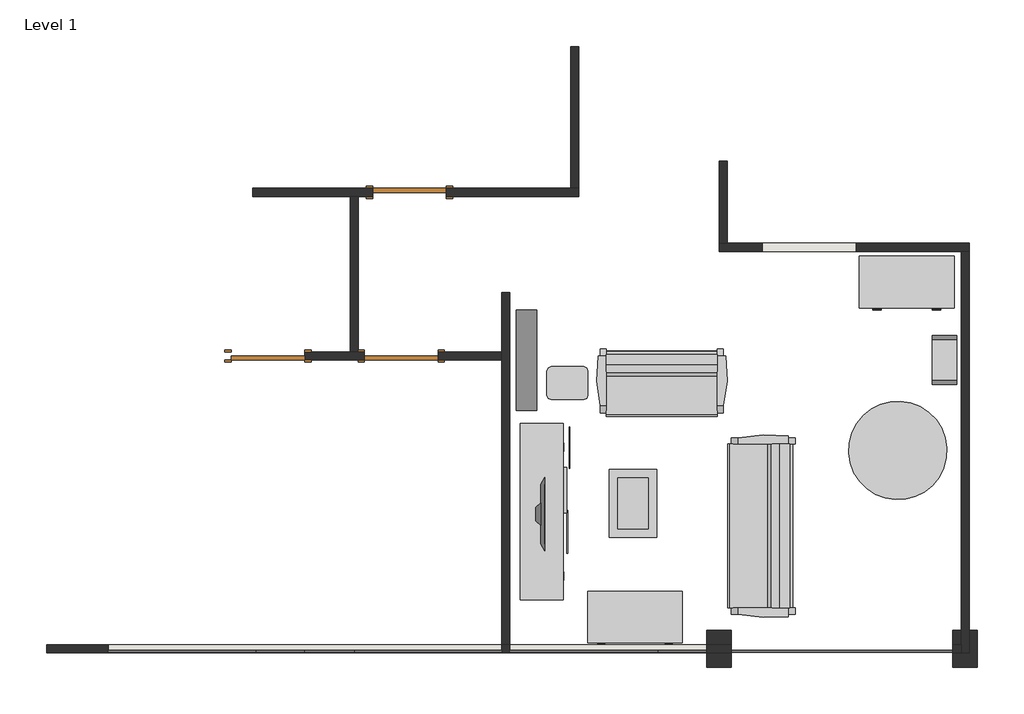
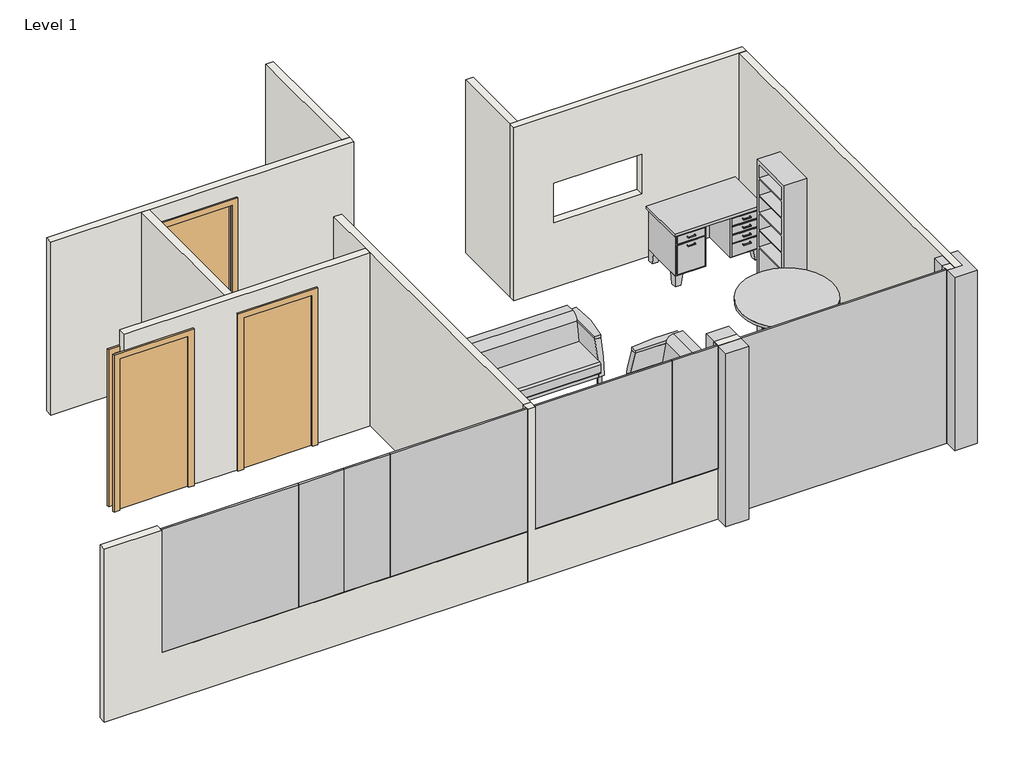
# One storey, incomplete: 10 furniture elements, 10 walls, 7 plates, 3 doors, 2 columns, 1 proxy.
"""IFC4 building model written with IfcOpenShell, lengths in millimetres."""

from ifc_helpers import new_model, si_unit, frame, origin, origin_with_axes, place, context, project, spatial, polyline, outline, extrude, faceted_brep, transform, mapped, element, save
from components import flat_screen_tv_7927_flat_screen_tv_7927_052adb82, concrete_rectangular_column_12_x_18_bfd634d7, door_048588e9, door_310a3c6c, furniture_6dfb0ca2, credenza_chest_ae103346, furniture_3d133266, furniture_b4575065, furniture_3fcbf438, furniture_de074a7a, furniture_85b1757a, furniture_73f28dff, furniture_7060ebe6, furniture_ab561517, system_panel_glazed_8633cea9, system_panel_glazed_ed711000, system_panel_glazed_10f89dab, system_panel_glazed_7aafd440, system_panel_glazed_fb0295e7

model = new_model("IFC4")

# Units and contexts
model_context = context("Model", 3, world=origin())
ifc_project = project(units=[si_unit("LENGTHUNIT", "METRE", prefix="MILLI")], contexts=[model_context])

# Site, building, storey
site = spatial("IfcSite", under=ifc_project)
building = spatial("IfcBuilding", under=site)
storey = spatial("IfcBuildingStorey", under=building, Name="Level 1", Elevation=0.0)

# Proxy
placement = place(None, origin())
flat_screen_tv_7927_flat_screen_tv_7927_shape = flat_screen_tv_7927_flat_screen_tv_7927_052adb82(model_context)
element("IfcBuildingElementProxy", 1, Name="Flat_Screen_TV_7927 : Flat_Screen_TV_7927", ObjectType="Flat_Screen_TV_7927 : Flat_Screen_TV_7927", at=placement, inside=storey, context=model_context, shape_type="MappedRepresentation", body=[
    mapped(flat_screen_tv_7927_flat_screen_tv_7927_shape, transform((6517.021318, 948.0409068, 990.6), x_axis=(0.0, 1.0000000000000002, 0.0), y_axis=(-1.0000000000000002, 0.0, 0.0), z_axis=(0.0, 0.0, 1.0))),
])

# Columns
concrete_rectangular_column_12_x_18_shape = concrete_rectangular_column_12_x_18_bfd634d7(model_context)
element("IfcColumn", 2, ObjectType="Concrete-Rectangular-Column : 12 x 18", at=placement, inside=storey, context=model_context, shape_type="MappedRepresentation", body=[
    mapped(concrete_rectangular_column_12_x_18_shape, transform((11724.021318, -722.0090932, 0.0), x_axis=(1.0, 0.0, 0.0), y_axis=(0.0, 1.0, 0.0), z_axis=(0.0, 0.0, 1.0))),
])
element("IfcColumn", 3, ObjectType="Concrete-Rectangular-Column : 12 x 18", at=placement, inside=storey, context=model_context, shape_type="MappedRepresentation", body=[
    mapped(concrete_rectangular_column_12_x_18_shape, transform((8676.021318, -722.0090932, 0.0), x_axis=(1.0, 0.0, 0.0), y_axis=(0.0, 1.0, 0.0), z_axis=(0.0, 0.0, 1.0))),
])

# Doors
door_shape = door_048588e9(model_context)
element("IfcDoor", 4, ObjectType="Single-Flush : 36\" x 84\"", at=placement, inside=storey, context=model_context, shape_type="MappedRepresentation", body=[
    mapped(door_shape, transform((4739.021318, 2910.1909068, 0.0), x_axis=(-1.0, 0.0, 0.0), y_axis=(0.0, -1.0, 0.0), z_axis=(0.0, 0.0, 1.0))),
])
element("IfcDoor", 5, ObjectType="Single-Flush : 36\" x 84\"", at=placement, inside=storey, context=model_context, shape_type="MappedRepresentation", body=[
    mapped(door_shape, transform((4840.621318, 4937.004425, 0.0), x_axis=(1.0, 0.0, 0.0), y_axis=(0.0, 1.0, 0.0), z_axis=(0.0, 0.0, 1.0))),
])
door_2_shape = door_310a3c6c(model_context)
element("IfcDoor", 6, ObjectType="Single-Flush : 36\" x 84\"", at=placement, inside=storey, context=model_context, shape_type="MappedRepresentation", body=[
    mapped(door_2_shape, transform((3088.021318, 2910.1909068, 0.0), x_axis=(1.0, 0.0, 0.0), y_axis=(0.0, 1.0, 0.0), z_axis=(0.0, 0.0, 1.0))),
])

# Furniture
furniture_shape = furniture_6dfb0ca2(model_context)
element("IfcFurniture", 7, ObjectType="Credenza : 84\"x20\"", at=placement, inside=storey, context=model_context, shape_type="MappedRepresentation", body=[
    mapped(furniture_shape, transform((6470.8016459, 920.2466445, 0.0), x_axis=(0.0, 0.9999999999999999, 0.0), y_axis=(-0.9999999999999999, 0.0, 0.0), z_axis=(0.0, 0.0, 1.0))),
])
credenza_chest_shape = credenza_chest_ae103346(model_context)
element("IfcFurniture", 8, ObjectType="Credenza : Chest", at=placement, inside=storey, context=model_context, shape_type="MappedRepresentation", body=[
    mapped(credenza_chest_shape, transform((7575.0770557, -320.189421, 0.0), x_axis=(1.0, 0.0, 0.0), y_axis=(0.0, 1.0, 0.0), z_axis=(0.0, 0.0, 1.0))),
])
furniture_2_shape = furniture_3d133266(model_context)
element("IfcFurniture", 9, ObjectType="Desk : 45\" x 24\"", at=placement, inside=storey, context=model_context, shape_type="MappedRepresentation", body=[
    mapped(furniture_2_shape, transform((10238.121318, 3443.5909068, 0.0), x_axis=(1.0, 0.0, 0.0), y_axis=(0.0, 1.0, 0.0), z_axis=(0.0, 0.0, 1.0))),
])
furniture_3_shape = furniture_b4575065(model_context)
element("IfcFurniture", 10, ObjectType="Shelving : 24\"x12\"x67\"", at=placement, inside=storey, context=model_context, shape_type="MappedRepresentation", body=[
    mapped(furniture_3_shape, transform((11165.221318, 2859.3909068, 0.0), x_axis=(0.0, 1.0, 0.0), y_axis=(-1.0, 0.0, 0.0), z_axis=(0.0, 0.0, 1.0))),
])
furniture_4_shape = furniture_3fcbf438(model_context)
element("IfcFurniture", 11, ObjectType="Shelving : 49\" x 48\" x 9.5\"", at=placement, inside=storey, context=model_context, shape_type="MappedRepresentation", body=[
    mapped(furniture_4_shape, transform((5983.621318, 2859.3909068, 0.0), x_axis=(0.0, 1.0, 0.0), y_axis=(-1.0, 0.0, 0.0), z_axis=(0.0, 0.0, 1.0))),
])
furniture_5_shape = furniture_de074a7a(model_context)
element("IfcFurniture", 12, ObjectType="Sofa-Pensi : 60\"", at=placement, inside=storey, context=model_context, shape_type="MappedRepresentation", body=[
    mapped(furniture_5_shape, transform((7686.215068, 2302.8810708, 0.0), x_axis=(1.0000000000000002, 0.0, 0.0), y_axis=(0.0, 1.0000000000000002, 0.0), z_axis=(0.0, 0.0, 1.0))),
])
furniture_6_shape = furniture_85b1757a(model_context)
element("IfcFurniture", 13, ObjectType="Sofa-Pensi : 86\"", at=placement, inside=storey, context=model_context, shape_type="MappedRepresentation", body=[
    mapped(furniture_6_shape, transform((8922.7671413, 1080.5971568, 0.0), x_axis=(0.0, -1.0, 0.0), y_axis=(1.0, 0.0, 0.0), z_axis=(0.0, 0.0, 1.0))),
])
furniture_7_shape = furniture_73f28dff(model_context)
element("IfcFurniture", 14, ObjectType="Table-Coffee : 33\" x 23\" x 21\"", at=placement, inside=storey, context=model_context, shape_type="MappedRepresentation", body=[
    mapped(furniture_7_shape, transform((7704.4323958, 1063.1251402, 0.0), x_axis=(0.0, 1.0, 0.0), y_axis=(-1.0, 0.0, 0.0), z_axis=(0.0, 0.0, 1.0))),
])
furniture_8_shape = furniture_7060ebe6(model_context)
element("IfcFurniture", 15, ObjectType="Table-Dining Round w Chairs : 48\" Diameter", at=placement, inside=storey, context=model_context, shape_type="MappedRepresentation", body=[
    mapped(furniture_8_shape, transform((10685.9170745, 1795.9426984, 0.0), x_axis=(0.7071067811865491, 0.7071067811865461, 0.0), y_axis=(-0.7071067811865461, 0.7071067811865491, 0.0), z_axis=(0.0, 0.0, 1.0))),
])
furniture_9_shape = furniture_ab561517(model_context)
element("IfcFurniture", 16, ObjectType="Table-End : 16\" x 20\"", at=placement, inside=storey, context=model_context, shape_type="MappedRepresentation", body=[
    mapped(furniture_9_shape, transform((6539.3494192, 2421.2409068, 0.0), x_axis=(1.0, 0.0, 0.0), y_axis=(0.0, 1.0, 0.0), z_axis=(0.0, 0.0, 1.0))),
])

# Plates
system_panel_glazed_shape = system_panel_glazed_8633cea9(model_context)
element("IfcPlate", 17, ObjectType="System Panel : Glazed", at=placement, inside=storey, context=model_context, shape_type="MappedRepresentation", body=[
    mapped(system_panel_glazed_shape, transform((10200.021318, -722.0090932, 0.0), x_axis=(1.0, 0.0, 0.0), y_axis=(0.0, 1.0, 0.0), z_axis=(0.0, 0.0, 1.0))),
])
system_panel_glazed_2_shape = system_panel_glazed_ed711000(model_context)
element("IfcPlate", 18, ObjectType="System Panel : Glazed", at=placement, inside=storey, context=model_context, shape_type="MappedRepresentation", body=[
    mapped(system_panel_glazed_2_shape, transform((6999.621318, -722.0090932, 711.2), x_axis=(1.0, 0.0, 0.0), y_axis=(0.0, 1.0, 0.0), z_axis=(0.0, 0.0, 1.0))),
])
element("IfcPlate", 19, ObjectType="System Panel : Glazed", at=placement, inside=storey, context=model_context, shape_type="MappedRepresentation", body=[
    mapped(system_panel_glazed_2_shape, transform((2021.221318, -722.0090932, 711.2), x_axis=(1.0, 0.0, 0.0), y_axis=(0.0, 1.0, 0.0), z_axis=(0.0, 0.0, 1.0))),
])
system_panel_glazed_3_shape = system_panel_glazed_10f89dab(model_context)
element("IfcPlate", 20, ObjectType="System Panel : Glazed", at=placement, inside=storey, context=model_context, shape_type="MappedRepresentation", body=[
    mapped(system_panel_glazed_3_shape, transform((8218.821318, -722.0090932, 711.2), x_axis=(1.0, 0.0, 0.0), y_axis=(0.0, 1.0, 0.0), z_axis=(0.0, 0.0, 1.0))),
])
element("IfcPlate", 21, ObjectType="System Panel : Glazed", at=placement, inside=storey, context=model_context, shape_type="MappedRepresentation", body=[
    mapped(system_panel_glazed_3_shape, transform((3240.421318, -722.0090932, 711.2), x_axis=(1.0, 0.0, 0.0), y_axis=(0.0, 1.0, 0.0), z_axis=(0.0, 0.0, 1.0))),
])
system_panel_glazed_4_shape = system_panel_glazed_7aafd440(model_context)
element("IfcPlate", 22, ObjectType="System Panel : Glazed", at=placement, inside=storey, context=model_context, shape_type="MappedRepresentation", body=[
    mapped(system_panel_glazed_4_shape, transform((5069.221318, -722.0090932, 711.2), x_axis=(-1.0, 0.0, 0.0), y_axis=(0.0, -1.0, 0.0), z_axis=(0.0, 0.0, 1.0))),
])
system_panel_glazed_5_shape = system_panel_glazed_fb0295e7(model_context)
element("IfcPlate", 23, ObjectType="System Panel : Glazed", at=placement, inside=storey, context=model_context, shape_type="MappedRepresentation", body=[
    mapped(system_panel_glazed_5_shape, transform((3850.021318, -722.0090932, 711.2), x_axis=(-1.0, 0.0, 0.0), y_axis=(0.0, -1.0, 0.0), z_axis=(0.0, 0.0, 1.0))),
])

# Walls
element("IfcWall", 24, ObjectType="Generic - 4\"", at=placement, inside=storey, context=model_context, shape_type="Brep", body=[
    faceted_brep([(11774.821318, 4307.1909068, 0.0), (8777.621318, 4307.1909068, 0.0), (8676.021318, 4307.1909068, 0.0), (8676.021318, 4307.1909068, 2438.4), (8777.621318, 4307.1909068, 2438.4), (11774.821318, 4307.1909068, 2438.4), (10376.1901465, 4307.1909068, 1473.2), (9207.7901465, 4307.1909068, 1473.2), (9207.7901465, 4307.1909068, 914.4), (10376.1901465, 4307.1909068, 914.4), (8676.021318, 4205.5909068, 0.0), (11673.221318, 4205.5909068, 0.0), (11774.821318, 4205.5909068, 0.0), (11774.821318, 4205.5909068, 2438.4), (11673.221318, 4205.5909068, 2438.4), (8676.021318, 4205.5909068, 2438.4), (9207.7901465, 4205.5909068, 1473.2), (10376.1901465, 4205.5909068, 1473.2), (10376.1901465, 4205.5909068, 914.4), (9207.7901465, 4205.5909068, 914.4)], [[[0, 1, 2, 3, 4, 5], [6, 7, 8, 9]], [[10, 11, 12, 13, 14, 15], [16, 17, 18, 19]], [[2, 1, 0, 12, 11, 10]], [[5, 4, 3, 15, 14, 13]], [[0, 5, 13, 12]], [[3, 2, 10, 15]], [[6, 17, 16, 7]], [[8, 19, 18, 9]], [[17, 6, 9, 18]], [[7, 16, 19, 8]]]),
])
element("IfcWall", 25, ObjectType="Generic - 4\"", at=placement, inside=storey, context=model_context, shape_type="Brep", body=[
    faceted_brep([(11774.821318, -772.8090932, 0.0), (11774.821318, 4205.5909068, 0.0), (11774.821318, 4205.5909068, 2438.4), (11774.821318, -772.8090932, 2438.4), (11673.221318, -772.8090932, 0.0), (11673.221318, -772.8090932, 2438.4), (11673.221318, -671.2090932, 2438.4), (11673.221318, 4205.5909068, 2438.4), (11673.221318, 4205.5909068, 0.0), (11673.221318, -671.2090932, 0.0)], [[[0, 1, 2, 3]], [[4, 5, 6, 7, 8, 9]], [[1, 0, 4, 9, 8]], [[3, 2, 7, 6, 5]], [[0, 3, 5, 4]], [[2, 1, 8, 7]]]),
])
element("IfcWall", 26, ObjectType="Generic - 4\"", at=placement, inside=storey, context=model_context, shape_type="Brep", body=[
    faceted_brep([(11673.221318, -772.8090932, 0.0), (11673.221318, -772.8090932, 2438.4), (11571.621318, -772.8090932, 2438.4), (11571.621318, -772.8090932, 0.0), (11673.221318, -671.2090932, 2438.4), (11673.221318, -671.2090932, 0.0), (11571.621318, -671.2090932, 0.0), (11571.621318, -671.2090932, 2438.4)], [[[0, 1, 2, 3]], [[4, 5, 6, 7]], [[5, 0, 3, 6]], [[1, 4, 7, 2]], [[1, 0, 5, 4]], [[3, 2, 7, 6]]]),
    faceted_brep([(5983.621318, -772.8090932, 2438.4), (5983.621318, -772.8090932, 0.0), (8828.421318, -772.8090932, 0.0), (8828.421318, -772.8090932, 2438.4), (8523.621318, -772.8090932, 2438.4), (8523.621318, -772.8090932, 711.2), (6085.221318, -772.8090932, 711.2), (6085.221318, -772.8090932, 2438.4), (5983.621318, -671.2090932, 0.0), (5983.621318, -671.2090932, 2438.4), (6085.221318, -671.2090932, 2438.4), (6085.221318, -671.2090932, 711.2), (8523.621318, -671.2090932, 711.2), (8523.621318, -671.2090932, 2438.4), (8828.421318, -671.2090932, 2438.4), (8828.421318, -671.2090932, 0.0), (6085.221318, -671.2090932, 0.0)], [[[0, 1, 2, 3, 4, 5, 6, 7]], [[8, 9, 10, 11, 12, 13, 14, 15, 16]], [[1, 8, 16, 15, 2]], [[3, 14, 13, 4]], [[9, 0, 7, 10]], [[1, 0, 9, 8]], [[3, 2, 15, 14]], [[6, 11, 10, 7]], [[12, 5, 4, 13]], [[11, 6, 5, 12]]]),
])
element("IfcWall", 27, ObjectType="Generic - 4\"", at=placement, inside=storey, context=model_context, shape_type="Brep", body=[
    faceted_brep([(5983.621318, 3697.5909068, 0.0), (5983.621318, 2960.9909068, 0.0), (5983.621318, 2859.3909068, 0.0), (5983.621318, -671.2090932, 0.0), (5983.621318, -671.2090932, 2438.4), (5983.621318, 2859.3909068, 2438.4), (5983.621318, 2960.9909068, 2438.4), (5983.621318, 3697.5909068, 2438.4), (6085.221318, 3697.5909068, 0.0), (6085.221318, 3697.5909068, 2438.4), (6085.221318, -671.2090932, 2438.4), (6085.221318, -671.2090932, 711.2), (6085.221318, -671.2090932, 0.0)], [[[0, 1, 2, 3, 4, 5, 6, 7]], [[8, 9, 10, 11, 12]], [[3, 2, 1, 0, 8, 12]], [[7, 6, 5, 4, 10, 9]], [[0, 7, 9, 8]], [[4, 3, 12, 11, 10]]]),
])
element("IfcWall", 28, ObjectType="Generic - 4\"", at=placement, inside=storey, context=model_context, shape_type="SweptSolid", body=[
    extrude(outline(polyline([(8777.621318, 5323.1909068), (8777.621318, 4307.1909068), (8676.021318, 4307.1909068), (8676.021318, 5323.1909068), (8777.621318, 5323.1909068)])), origin_with_axes(), (0.0, 0.0, 1.0), 2438.4),
])
element("IfcWall", 29, ObjectType="Generic - 4\"", at=placement, inside=storey, context=model_context, shape_type="Brep", body=[
    faceted_brep([(5297.821318, 4886.204425, 2133.6), (5297.821318, 4886.204425, 0.0), (6936.9861275, 4886.204425, 0.0), (6936.9861275, 4886.204425, 2438.4), (4205.621318, 4886.204425, 2438.4), (4104.021318, 4886.204425, 2438.4), (2898.3861275, 4886.204425, 2438.4), (2898.3861275, 4886.204425, 0.0), (4104.021318, 4886.204425, 0.0), (4205.621318, 4886.204425, 0.0), (4383.421318, 4886.204425, 0.0), (4383.421318, 4886.204425, 2133.6), (6936.9861275, 4987.804425, 0.0), (6835.3861275, 4987.804425, 0.0), (5297.821318, 4987.804425, 0.0), (5297.821318, 4987.804425, 2133.6), (4383.421318, 4987.804425, 2133.6), (4383.421318, 4987.804425, 0.0), (2898.3861275, 4987.804425, 0.0), (2898.3861275, 4987.804425, 2438.4), (6835.3861275, 4987.804425, 2438.4), (6936.9861275, 4987.804425, 2438.4)], [[[0, 1, 2, 3, 4, 5, 6, 7, 8, 9, 10, 11]], [[12, 13, 14, 15, 16, 17, 18, 19, 20, 21]], [[2, 1, 14, 13, 12]], [[10, 9, 8, 7, 18, 17]], [[6, 5, 4, 3, 21, 20, 19]], [[7, 6, 19, 18]], [[3, 2, 12, 21]], [[15, 14, 1, 0]], [[16, 15, 0, 11]], [[17, 16, 11, 10]]]),
])
element("IfcWall", 30, ObjectType="Generic - 4\"", at=placement, inside=storey, context=model_context, shape_type="SweptSolid", body=[
    extrude(outline(polyline([(6936.9861275, 6745.5909068), (6936.9861275, 4987.804425), (6835.3861275, 4987.804425), (6835.3861275, 6745.5909068), (6936.9861275, 6745.5909068)])), origin_with_axes(), (0.0, 0.0, 1.0), 2438.4),
])
element("IfcWall", 31, ObjectType="Generic - 4\"", at=placement, inside=storey, context=model_context, shape_type="SweptSolid", body=[
    extrude(outline(polyline([(0.0, 344.821318), (0.0, 5983.621318), (711.2, 5983.621318), (711.2, 1106.821318), (2438.4, 1106.821318), (2438.4, 344.821318), (0.0, 344.821318)])), frame((0.0, -772.8090932, 0.0), z_axis=(0.0, 1.0, 0.0), x_axis=(0.0, 0.0, 1.0)), (0.0, 0.0, 1.0), 101.6),
])
element("IfcWall", 32, ObjectType="Generic - 4\"", at=placement, inside=storey, context=model_context, shape_type="Brep", body=[
    faceted_brep([(2707.021318, 2960.9909068, 2438.4), (4104.021318, 2960.9909068, 2438.4), (4205.621318, 2960.9909068, 2438.4), (5983.621318, 2960.9909068, 2438.4), (5983.621318, 2960.9909068, 0.0), (5196.221318, 2960.9909068, 0.0), (5196.221318, 2960.9909068, 2133.6), (4281.821318, 2960.9909068, 2133.6), (4281.821318, 2960.9909068, 0.0), (4205.621318, 2960.9909068, 0.0), (4104.021318, 2960.9909068, 0.0), (3545.221318, 2960.9909068, 0.0), (3545.221318, 2960.9909068, 2133.6), (2707.021318, 2960.9909068, 2133.6), (5983.621318, 2859.3909068, 2438.4), (2707.021318, 2859.3909068, 2438.4), (2707.021318, 2859.3909068, 2133.6), (3545.221318, 2859.3909068, 2133.6), (3545.221318, 2859.3909068, 0.0), (4281.821318, 2859.3909068, 0.0), (4281.821318, 2859.3909068, 2133.6), (5196.221318, 2859.3909068, 2133.6), (5196.221318, 2859.3909068, 0.0), (5983.621318, 2859.3909068, 0.0)], [[[0, 1, 2, 3, 4, 5, 6, 7, 8, 9, 10, 11, 12, 13]], [[14, 15, 16, 17, 18, 19, 20, 21, 22, 23]], [[4, 23, 22, 5]], [[8, 19, 18, 11, 10, 9]], [[15, 0, 13, 16]], [[3, 2, 1, 0, 15, 14]], [[4, 3, 14, 23]], [[20, 19, 8, 7]], [[21, 20, 7, 6]], [[22, 21, 6, 5]], [[17, 12, 11, 18]], [[12, 17, 16, 13]]]),
])
element("IfcWall", 33, ObjectType="Generic - 4\"", at=placement, inside=storey, context=model_context, shape_type="SweptSolid", body=[
    extrude(outline(polyline([(4205.621318, 4886.204425), (4205.621318, 2960.9909068), (4104.021318, 2960.9909068), (4104.021318, 4886.204425), (4205.621318, 4886.204425)])), origin_with_axes(), (0.0, 0.0, 1.0), 2438.4),
])

save(model, "model.ifc")
